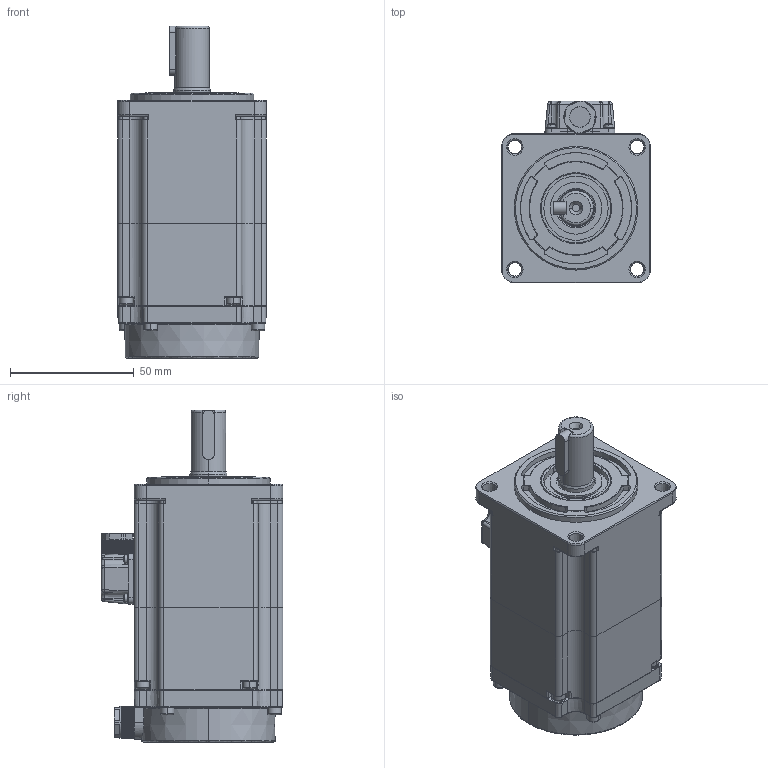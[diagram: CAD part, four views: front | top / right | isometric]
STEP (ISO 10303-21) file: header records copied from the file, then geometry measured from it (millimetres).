
FILE_DESCRIPTION (( 'STEP AP203' ), '1' );
FILE_NAME ('G3系列60ST-200W刹车电机三维图.STEP', '2023-09-27T05:24:12', ( '微软用户' ), ( '微软中国' ), 'SwSTEP 2.0', 'SolidWorks 2016', '' );
FILE_SCHEMA (( 'CONFIG_CONTROL_DESIGN' ));
Products named in the file (1): G3系列60ST-200W刹车电机三维图
Bounding box: 60.2 x 73.5 x 134.3 mm (x, y, z)
Volume: 136242.3 mm3; surface area: 84804.1 mm2
Topology: 21 solids, 21 shells, 2963 faces, 7249 edges, 4418 vertices
Faces by surface type: plane 1622, cylinder 565, cone 489, bspline 159, torus 112, sphere 16
Entity records: 90642 total; most frequent: CARTESIAN_POINT 21194, DIRECTION 14648, ORIENTED_EDGE 14450, EDGE_CURVE 7225, AXIS2_PLACEMENT_3D 5248, VERTEX_POINT 4418, VECTOR 4152, LINE 4152
